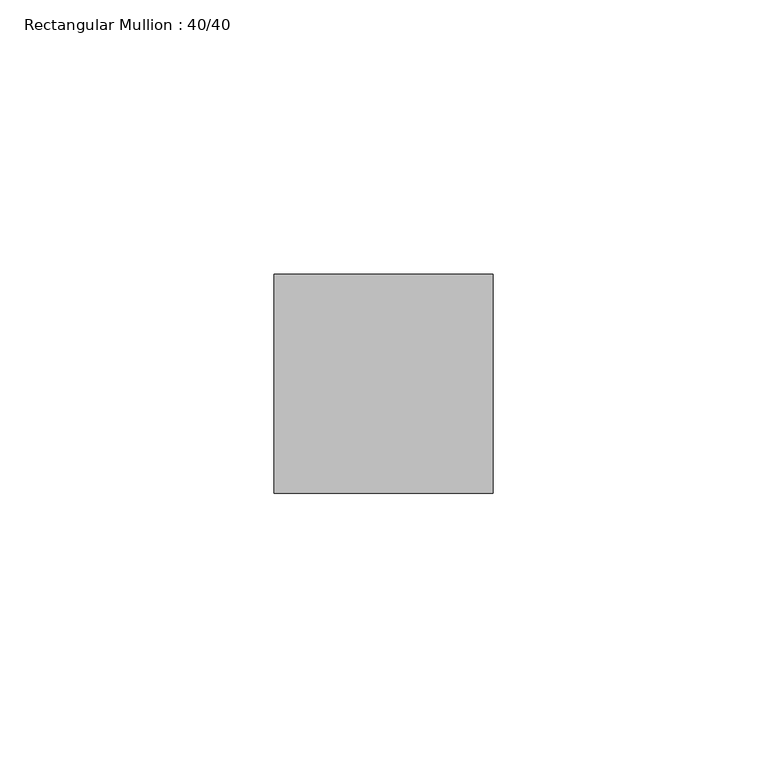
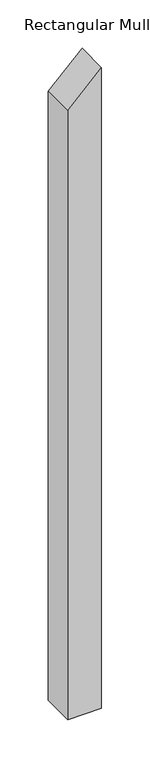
"""IFC4 building model written with IfcOpenShell, lengths in millimetres: member geometry, Rectangular Mullion : 40/40."""

from ifc_helpers import new_model, si_unit, frame, origin, place, context, project, spatial, polyline, outline, extrude, source, transform, mapped, element, save


def rectangular_mullion_40_40_e33aa6b6(model_context):
    return source(origin(), model_context, "Body", "SweptSolid", [
        extrude(outline(polyline([(0.0, 0.0), (-39.9918906, -40.0), (-806.5171447, -40.0), (-806.5171447, 0.0), (0.0, 0.0)])), frame((0.0, -20.0, 0.0), z_axis=(0.0, 1.0, 0.0), x_axis=(0.0, 0.0, 1.0)), (0.0, 0.0, 1.0), 40.0),
    ])


if __name__ == "__main__":
    model = new_model("IFC4")
    model_context = context("Model", 3, world=origin())
    ifc_project = project(units=[si_unit("LENGTHUNIT", "METRE", prefix="MILLI")], contexts=[model_context])
    site = spatial("IfcSite", under=ifc_project)
    building = spatial("IfcBuilding", under=site)
    placement = place(None, origin())
    rectangular_mullion_40_40_shape = rectangular_mullion_40_40_e33aa6b6(model_context)
    element("IfcMember", 1, ObjectType="Rectangular Mullion : 40/40", at=placement, inside=building, context=model_context, shape_type="MappedRepresentation", body=[
        mapped(rectangular_mullion_40_40_shape, transform((0.0, 0.0, 0.0), x_axis=(1.0, 0.0, 0.0), y_axis=(0.0, 1.0, 0.0), z_axis=(0.0, 0.0, 1.0))),
    ])
    save(model, "model.ifc")
